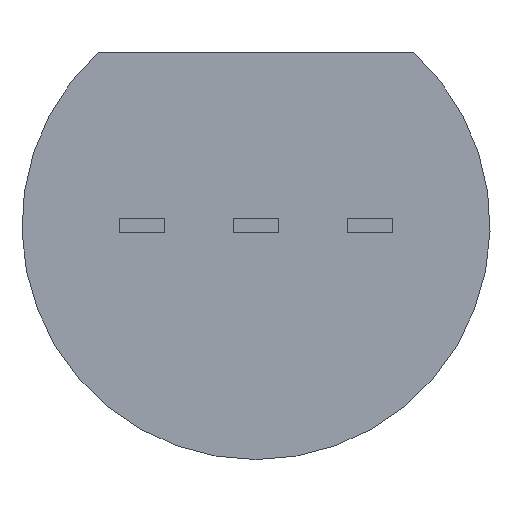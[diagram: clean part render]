
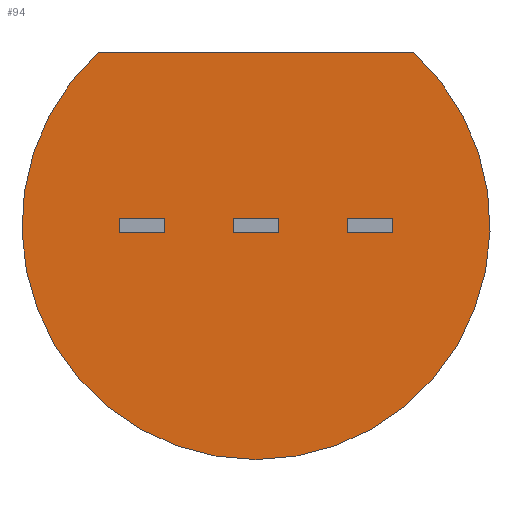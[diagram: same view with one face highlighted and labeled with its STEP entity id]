
A CAD part, front view. The second image highlights one B-rep face of the part: STEP entity #94.
In plain terms, the highlighted planar face has unit normal (0, -1, 0).
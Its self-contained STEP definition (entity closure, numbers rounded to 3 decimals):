
#1 = EDGE_CURVE ( 'NONE', #747, #824, #119, .T. ) ;
#21 = ORIENTED_EDGE ( 'NONE', *, *, #25, .F. ) ;
#22 = EDGE_CURVE ( 'NONE', #23, #76, #215, .T. ) ;
#23 = VERTEX_POINT ( 'NONE', #206 ) ;
#24 = ORIENTED_EDGE ( 'NONE', *, *, #22, .F. ) ;
#25 = EDGE_CURVE ( 'NONE', #81, #23, #205, .T. ) ;
#76 = VERTEX_POINT ( 'NONE', #372 ) ;
#78 = EDGE_LOOP ( 'NONE', ( #751, #744, #739, #745 ) ) ;
#79 = ORIENTED_EDGE ( 'NONE', *, *, #80, .F. ) ;
#80 = EDGE_CURVE ( 'NONE', #76, #81, #371, .T. ) ;
#81 = VERTEX_POINT ( 'NONE', #366 ) ;
#82 = VERTEX_POINT ( 'NONE', #365 ) ;
#83 = VERTEX_POINT ( 'NONE', #364 ) ;
#84 = EDGE_CURVE ( 'NONE', #87, #85, #363, .T. ) ;
#85 = VERTEX_POINT ( 'NONE', #359 ) ;
#86 = ORIENTED_EDGE ( 'NONE', *, *, #93, .F. ) ;
#87 = VERTEX_POINT ( 'NONE', #358 ) ;
#88 = ORIENTED_EDGE ( 'NONE', *, *, #89, .F. ) ;
#89 = EDGE_CURVE ( 'NONE', #83, #87, #357, .T. ) ;
#90 = ORIENTED_EDGE ( 'NONE', *, *, #91, .F. ) ;
#91 = EDGE_CURVE ( 'NONE', #85, #82, #353, .T. ) ;
#92 = EDGE_LOOP ( 'NONE', ( #24, #21, #79 ) ) ;
#93 = EDGE_CURVE ( 'NONE', #82, #83, #349, .T. ) ;
#94 = ADVANCED_FACE ( 'NONE', ( #409, #408, #407, #406 ), #405, .F. ) ;
#95 = EDGE_LOOP ( 'NONE', ( #98, #88, #86, #90 ) ) ;
#98 = ORIENTED_EDGE ( 'NONE', *, *, #84, .F. ) ;
#116 = DIRECTION ( 'NONE',  ( -1., 0., 0. ) ) ;
#117 = VECTOR ( 'NONE', #116, 1000. ) ;
#118 = CARTESIAN_POINT ( 'NONE',  ( 1.02, 1.5, 0.08 ) ) ;
#119 = LINE ( 'NONE', #118, #117 ) ;
#202 = DIRECTION ( 'NONE',  ( 1., 0., 0. ) ) ;
#203 = VECTOR ( 'NONE', #202, 1000. ) ;
#204 = CARTESIAN_POINT ( 'NONE',  ( -1.75, 1.5, 1.923 ) ) ;
#205 = LINE ( 'NONE', #204, #203 ) ;
#206 = CARTESIAN_POINT ( 'NONE',  ( 1.75, 1.5, 1.923 ) ) ;
#207 = DIRECTION ( 'NONE',  ( 0., 0., 1. ) ) ;
#208 = DIRECTION ( 'NONE',  ( 0., 1., 0. ) ) ;
#209 = CARTESIAN_POINT ( 'NONE',  ( 0., 1.5, 0. ) ) ;
#210 = AXIS2_PLACEMENT_3D ( 'NONE', #209, #208, #207 ) ;
#215 = CIRCLE ( 'NONE', #210, 2.6 ) ;
#349 = LINE ( 'NONE', #412, #411 ) ;
#350 = DIRECTION ( 'NONE',  ( -1., 0., 0. ) ) ;
#351 = VECTOR ( 'NONE', #350, 1000. ) ;
#352 = CARTESIAN_POINT ( 'NONE',  ( -0.25, 1.5, 0.08 ) ) ;
#353 = LINE ( 'NONE', #352, #351 ) ;
#354 = DIRECTION ( 'NONE',  ( 1., 0., 0. ) ) ;
#355 = VECTOR ( 'NONE', #354, 1000. ) ;
#356 = CARTESIAN_POINT ( 'NONE',  ( -0.25, 1.5, -0.08 ) ) ;
#357 = LINE ( 'NONE', #356, #355 ) ;
#358 = CARTESIAN_POINT ( 'NONE',  ( 0.25, 1.5, -0.08 ) ) ;
#359 = CARTESIAN_POINT ( 'NONE',  ( 0.25, 1.5, 0.08 ) ) ;
#360 = DIRECTION ( 'NONE',  ( 0., 0., 1. ) ) ;
#361 = VECTOR ( 'NONE', #360, 1000. ) ;
#362 = CARTESIAN_POINT ( 'NONE',  ( 0.25, 1.5, -0.08 ) ) ;
#363 = LINE ( 'NONE', #362, #361 ) ;
#364 = CARTESIAN_POINT ( 'NONE',  ( -0.25, 1.5, -0.08 ) ) ;
#365 = CARTESIAN_POINT ( 'NONE',  ( -0.25, 1.5, 0.08 ) ) ;
#366 = CARTESIAN_POINT ( 'NONE',  ( -1.75, 1.5, 1.923 ) ) ;
#367 = DIRECTION ( 'NONE',  ( 0., 0., 1. ) ) ;
#368 = DIRECTION ( 'NONE',  ( 0., 1., 0. ) ) ;
#369 = CARTESIAN_POINT ( 'NONE',  ( 0., 1.5, 0. ) ) ;
#370 = AXIS2_PLACEMENT_3D ( 'NONE', #369, #368, #367 ) ;
#371 = CIRCLE ( 'NONE', #370, 2.6 ) ;
#372 = CARTESIAN_POINT ( 'NONE',  ( 0., 1.5, -2.6 ) ) ;
#400 = DIRECTION ( 'NONE',  ( 0., 0., 1. ) ) ;
#401 = DIRECTION ( 'NONE',  ( 0., 1., 0. ) ) ;
#402 = CARTESIAN_POINT ( 'NONE',  ( 0., 1.5, 0. ) ) ;
#404 = AXIS2_PLACEMENT_3D ( 'NONE', #402, #401, #400 ) ;
#405 = PLANE ( 'NONE',  #404 ) ;
#406 = FACE_BOUND ( 'NONE', #733, .T. ) ;
#407 = FACE_BOUND ( 'NONE', #78, .T. ) ;
#408 = FACE_OUTER_BOUND ( 'NONE', #92, .T. ) ;
#409 = FACE_BOUND ( 'NONE', #95, .T. ) ;
#410 = DIRECTION ( 'NONE',  ( 0., 0., -1. ) ) ;
#411 = VECTOR ( 'NONE', #410, 1000. ) ;
#412 = CARTESIAN_POINT ( 'NONE',  ( -0.25, 1.5, -0.08 ) ) ;
#445 = LINE ( 'NONE', #500, #499 ) ;
#446 = DIRECTION ( 'NONE',  ( 0., 0., -1. ) ) ;
#447 = VECTOR ( 'NONE', #446, 1000. ) ;
#448 = CARTESIAN_POINT ( 'NONE',  ( -1.52, 1.5, -0.08 ) ) ;
#449 = LINE ( 'NONE', #448, #447 ) ;
#450 = CARTESIAN_POINT ( 'NONE',  ( -1.52, 1.5, 0.08 ) ) ;
#451 = CARTESIAN_POINT ( 'NONE',  ( -1.02, 1.5, -0.08 ) ) ;
#452 = CARTESIAN_POINT ( 'NONE',  ( -1.02, 1.5, 0.08 ) ) ;
#453 = DIRECTION ( 'NONE',  ( 0., 0., 1. ) ) ;
#454 = VECTOR ( 'NONE', #453, 1000. ) ;
#455 = CARTESIAN_POINT ( 'NONE',  ( 1.52, 1.5, -0.08 ) ) ;
#456 = LINE ( 'NONE', #455, #454 ) ;
#457 = CARTESIAN_POINT ( 'NONE',  ( 1.52, 1.5, -0.08 ) ) ;
#482 = DIRECTION ( 'NONE',  ( 0., 0., 1. ) ) ;
#483 = VECTOR ( 'NONE', #482, 1000. ) ;
#484 = CARTESIAN_POINT ( 'NONE',  ( -1.02, 1.5, -0.08 ) ) ;
#485 = LINE ( 'NONE', #484, #483 ) ;
#492 = CARTESIAN_POINT ( 'NONE',  ( 1.52, 1.5, 0.08 ) ) ;
#493 = DIRECTION ( 'NONE',  ( -1., 0., 0. ) ) ;
#494 = VECTOR ( 'NONE', #493, 1000. ) ;
#495 = CARTESIAN_POINT ( 'NONE',  ( -1.52, 1.5, 0.08 ) ) ;
#496 = LINE ( 'NONE', #495, #494 ) ;
#497 = CARTESIAN_POINT ( 'NONE',  ( -1.52, 1.5, -0.08 ) ) ;
#498 = DIRECTION ( 'NONE',  ( 1., 0., 0. ) ) ;
#499 = VECTOR ( 'NONE', #498, 1000. ) ;
#500 = CARTESIAN_POINT ( 'NONE',  ( -1.52, 1.5, -0.08 ) ) ;
#627 = DIRECTION ( 'NONE',  ( 1., 0., 0. ) ) ;
#628 = VECTOR ( 'NONE', #627, 1000. ) ;
#629 = CARTESIAN_POINT ( 'NONE',  ( 1.02, 1.5, -0.08 ) ) ;
#630 = LINE ( 'NONE', #629, #628 ) ;
#631 = DIRECTION ( 'NONE',  ( 0., 0., -1. ) ) ;
#632 = VECTOR ( 'NONE', #631, 1000. ) ;
#633 = CARTESIAN_POINT ( 'NONE',  ( 1.02, 1.5, -0.08 ) ) ;
#634 = LINE ( 'NONE', #633, #632 ) ;
#635 = CARTESIAN_POINT ( 'NONE',  ( 1.02, 1.5, -0.08 ) ) ;
#677 = CARTESIAN_POINT ( 'NONE',  ( 1.02, 1.5, 0.08 ) ) ;
#730 = VERTEX_POINT ( 'NONE', #457 ) ;
#731 = ORIENTED_EDGE ( 'NONE', *, *, #732, .F. ) ;
#732 = EDGE_CURVE ( 'NONE', #730, #747, #456, .T. ) ;
#733 = EDGE_LOOP ( 'NONE', ( #731, #755, #800, #823 ) ) ;
#737 = VERTEX_POINT ( 'NONE', #452 ) ;
#738 = VERTEX_POINT ( 'NONE', #451 ) ;
#739 = ORIENTED_EDGE ( 'NONE', *, *, #741, .F. ) ;
#740 = VERTEX_POINT ( 'NONE', #450 ) ;
#741 = EDGE_CURVE ( 'NONE', #740, #743, #449, .T. ) ;
#742 = EDGE_CURVE ( 'NONE', #743, #738, #445, .T. ) ;
#743 = VERTEX_POINT ( 'NONE', #497 ) ;
#744 = ORIENTED_EDGE ( 'NONE', *, *, #742, .F. ) ;
#745 = ORIENTED_EDGE ( 'NONE', *, *, #746, .F. ) ;
#746 = EDGE_CURVE ( 'NONE', #737, #740, #496, .T. ) ;
#747 = VERTEX_POINT ( 'NONE', #492 ) ;
#750 = EDGE_CURVE ( 'NONE', #738, #737, #485, .T. ) ;
#751 = ORIENTED_EDGE ( 'NONE', *, *, #750, .F. ) ;
#755 = ORIENTED_EDGE ( 'NONE', *, *, #801, .F. ) ;
#798 = VERTEX_POINT ( 'NONE', #635 ) ;
#799 = EDGE_CURVE ( 'NONE', #824, #798, #634, .T. ) ;
#800 = ORIENTED_EDGE ( 'NONE', *, *, #799, .F. ) ;
#801 = EDGE_CURVE ( 'NONE', #798, #730, #630, .T. ) ;
#823 = ORIENTED_EDGE ( 'NONE', *, *, #1, .F. ) ;
#824 = VERTEX_POINT ( 'NONE', #677 ) ;
